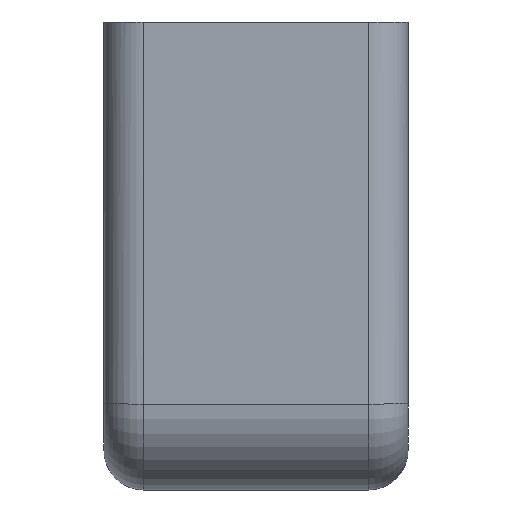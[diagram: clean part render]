
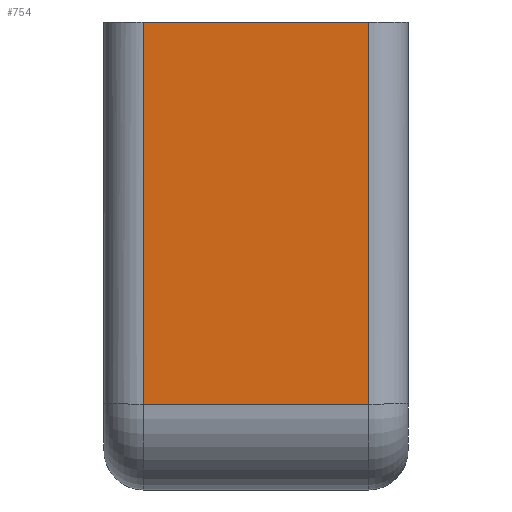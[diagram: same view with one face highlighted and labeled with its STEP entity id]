
A CAD part, front view. The second image highlights one B-rep face of the part: STEP entity #754.
In plain terms, the highlighted planar face has unit normal (0, -0.999, -0.033).
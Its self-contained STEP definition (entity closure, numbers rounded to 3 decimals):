
#3 = CARTESIAN_POINT ( 'NONE',  ( 1., -1.255, -8.875 ) ) ;
#41 = CARTESIAN_POINT ( 'NONE',  ( 6.5, -1.578, 0.8 ) ) ;
#46 = VECTOR ( 'NONE', #1376, 1000. ) ;
#67 = CARTESIAN_POINT ( 'NONE',  ( 6.5, -1.639, 2.658 ) ) ;
#142 = VERTEX_POINT ( 'NONE', #477 ) ;
#290 = ORIENTED_EDGE ( 'NONE', *, *, #1444, .T. ) ;
#320 = DIRECTION ( 'NONE',  ( -1., 0., 0. ) ) ;
#387 = EDGE_CURVE ( 'NONE', #844, #566, #979, .T. ) ;
#416 = ORIENTED_EDGE ( 'NONE', *, *, #387, .T. ) ;
#477 = CARTESIAN_POINT ( 'NONE',  ( 6.7, -1.578, 0.8 ) ) ;
#511 = CARTESIAN_POINT ( 'NONE',  ( 1., -1.639, 2.658 ) ) ;
#528 = VERTEX_POINT ( 'NONE', #999 ) ;
#554 = AXIS2_PLACEMENT_3D ( 'NONE', #67, #1043, #1296 ) ;
#566 = VERTEX_POINT ( 'NONE', #3 ) ;
#703 = VECTOR ( 'NONE', #1573, 1000. ) ;
#734 = EDGE_CURVE ( 'NONE', #528, #566, #783, .T. ) ;
#754 = ADVANCED_FACE ( 'NONE', ( #862 ), #787, .F. ) ;
#777 = LINE ( 'NONE', #41, #1153 ) ;
#783 = LINE ( 'NONE', #797, #1142 ) ;
#787 = PLANE ( 'NONE',  #554 ) ;
#797 = CARTESIAN_POINT ( 'NONE',  ( 6.5, -1.255, -8.875 ) ) ;
#844 = VERTEX_POINT ( 'NONE', #1070 ) ;
#862 = FACE_OUTER_BOUND ( 'NONE', #1432, .T. ) ;
#870 = ORIENTED_EDGE ( 'NONE', *, *, #1085, .T. ) ;
#949 = CARTESIAN_POINT ( 'NONE',  ( 6.7, -1.578, 0.8 ) ) ;
#979 = LINE ( 'NONE', #511, #46 ) ;
#999 = CARTESIAN_POINT ( 'NONE',  ( 6.7, -1.255, -8.875 ) ) ;
#1043 = DIRECTION ( 'NONE',  ( 0., 0.999, 0.033 ) ) ;
#1070 = CARTESIAN_POINT ( 'NONE',  ( 1., -1.578, 0.8 ) ) ;
#1085 = EDGE_CURVE ( 'NONE', #528, #142, #1581, .T. ) ;
#1142 = VECTOR ( 'NONE', #320, 1000. ) ;
#1153 = VECTOR ( 'NONE', #1259, 1000. ) ;
#1259 = DIRECTION ( 'NONE',  ( -1., 0., 0. ) ) ;
#1296 = DIRECTION ( 'NONE',  ( 0., -0.033, 0.999 ) ) ;
#1376 = DIRECTION ( 'NONE',  ( 0., 0.033, -0.999 ) ) ;
#1419 = ORIENTED_EDGE ( 'NONE', *, *, #734, .F. ) ;
#1432 = EDGE_LOOP ( 'NONE', ( #290, #416, #1419, #870 ) ) ;
#1444 = EDGE_CURVE ( 'NONE', #142, #844, #777, .T. ) ;
#1573 = DIRECTION ( 'NONE',  ( 0., -0.033, 0.999 ) ) ;
#1581 = LINE ( 'NONE', #949, #703 ) ;
